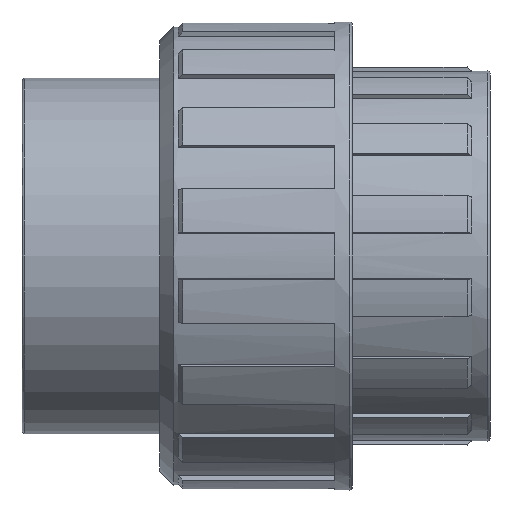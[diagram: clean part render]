
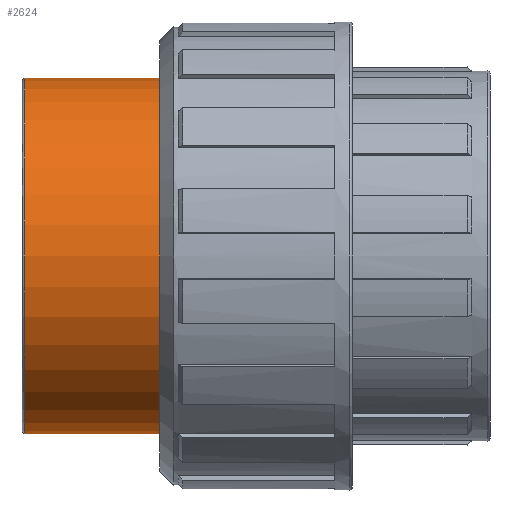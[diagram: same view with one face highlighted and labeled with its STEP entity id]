
A CAD part, front view. The second image highlights one B-rep face of the part: STEP entity #2624.
In plain terms, the highlighted cylindrical face has radius 30 mm (diameter 60 mm), a full revolution.
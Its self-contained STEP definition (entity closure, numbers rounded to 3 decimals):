
#63=FACE_BOUND('',#516,.T.);
#90=CYLINDRICAL_SURFACE('',#2898,30.);
#224=CIRCLE('',#2897,30.);
#225=CIRCLE('',#2899,30.);
#362=FACE_OUTER_BOUND('',#515,.T.);
#515=EDGE_LOOP('',(#2319));
#516=EDGE_LOOP('',(#2320));
#1266=VERTEX_POINT('',#4468);
#1267=VERTEX_POINT('',#4471);
#1643=EDGE_CURVE('',#1266,#1266,#224,.T.);
#1644=EDGE_CURVE('',#1267,#1267,#225,.T.);
#2319=ORIENTED_EDGE('',*,*,#1644,.T.);
#2320=ORIENTED_EDGE('',*,*,#1643,.F.);
#2624=ADVANCED_FACE('',(#362,#63),#90,.T.);
#2897=AXIS2_PLACEMENT_3D('',#4469,#3676,#3677);
#2898=AXIS2_PLACEMENT_3D('',#4470,#3678,#3679);
#2899=AXIS2_PLACEMENT_3D('',#4472,#3680,#3681);
#3676=DIRECTION('center_axis',(-1.,0.,0.));
#3677=DIRECTION('ref_axis',(0.,1.,0.));
#3678=DIRECTION('center_axis',(-1.,0.,0.));
#3679=DIRECTION('ref_axis',(0.,-1.,0.));
#3680=DIRECTION('center_axis',(-1.,0.,0.));
#3681=DIRECTION('ref_axis',(0.,0.,1.));
#4468=CARTESIAN_POINT('',(-39.,-30.,0.));
#4469=CARTESIAN_POINT('Origin',(-39.,0.,0.));
#4470=CARTESIAN_POINT('Origin',(-27.875,0.,0.));
#4471=CARTESIAN_POINT('',(-16.25,-30.,0.));
#4472=CARTESIAN_POINT('Origin',(-16.25,0.,0.));
